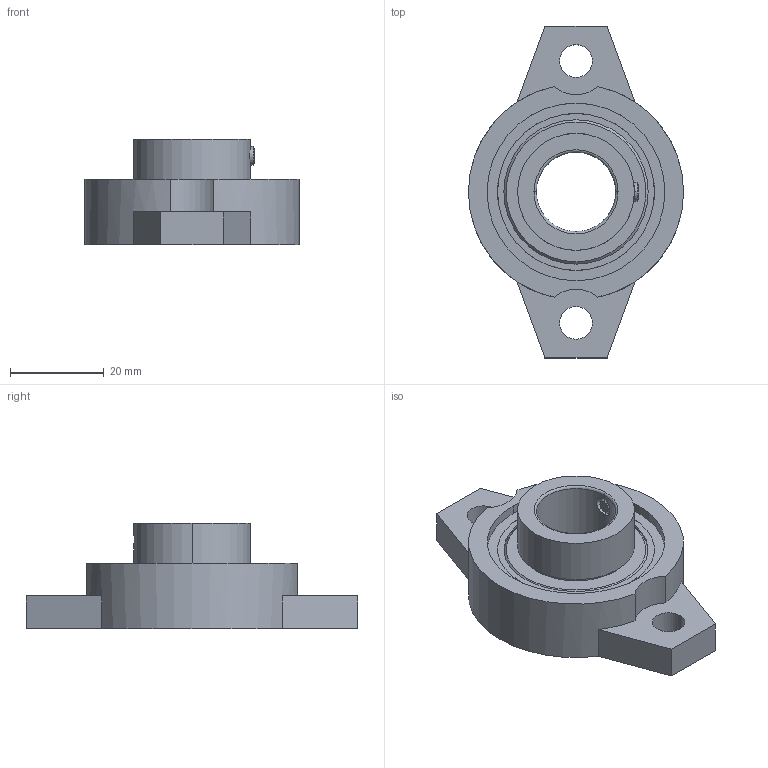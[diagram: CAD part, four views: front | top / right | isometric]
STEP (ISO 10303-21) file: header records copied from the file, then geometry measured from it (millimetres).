
FILE_DESCRIPTION (( 'STEP AP214' ), '1' );
FILE_NAME ('4.0008 Laakeri USBFL 003 JIB.STEP', '2025-09-24T07:24:31', ( '' ), ( '' ), 'SwSTEP 2.0', 'SolidWorks 2025', '' );
FILE_SCHEMA (( 'AUTOMOTIVE_DESIGN' ));
Length unit declared in the file: millimetre
Products named in the file (1): 4.0008 Laakeri USBFL 003 JIB
Bounding box: 46 x 71 x 22.5 mm (x, y, z)
Volume: 20625.5 mm3; surface area: 14869 mm2
Topology: 2 solids, 2 shells, 203 faces, 637 edges, 412 vertices
Faces by surface type: sphere 64, torus 54, cylinder 44, plane 31, cone 10
Entity records: 15848 total; most frequent: CARTESIAN_POINT 10373, ORIENTED_EDGE 1248, DIRECTION 1008, EDGE_CURVE 624, AXIS2_PLACEMENT_3D 456, VERTEX_POINT 405, B_SPLINE_CURVE_WITH_KNOTS 276, CIRCLE 252
